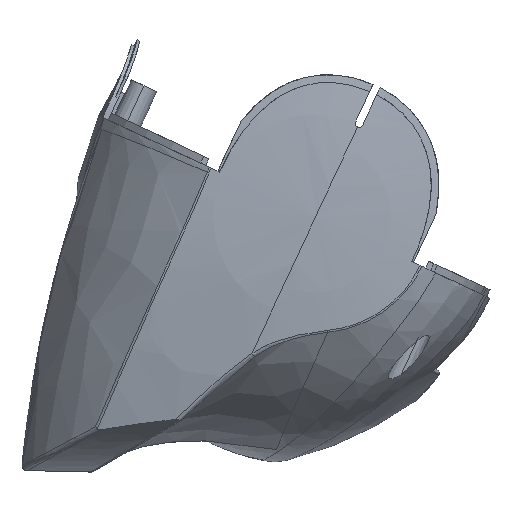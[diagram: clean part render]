
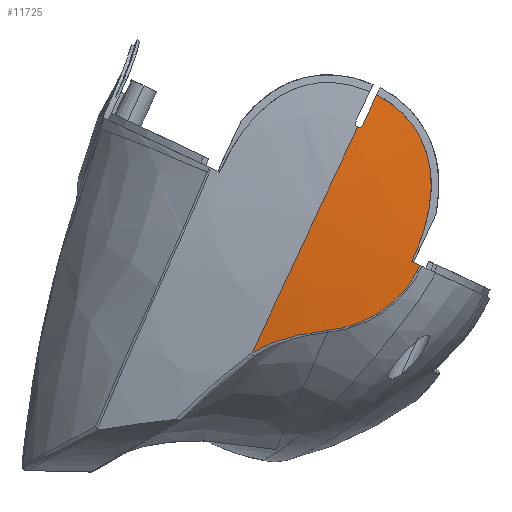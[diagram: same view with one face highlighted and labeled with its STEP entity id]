
A CAD part, left-side view. The second image highlights one B-rep face of the part: STEP entity #11725.
In plain terms, the highlighted spherical face has radius 235.698 mm.
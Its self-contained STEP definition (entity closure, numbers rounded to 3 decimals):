
#1496=CARTESIAN_POINT('',(-42.922,-20.327,
-9.478));
#1501=CARTESIAN_POINT('',(191.706,0.,
0.));
#1502=DIRECTION('',(0.,0.423,-0.906));
#1503=DIRECTION('',(-0.995,-0.086,-0.04));
#1504=AXIS2_PLACEMENT_3D('',#1501,#1502,#1503);
#1604=CARTESIAN_POINT('',(191.706,-0.68,
-0.317));
#1605=DIRECTION('',(0.,0.906,0.423));
#1606=DIRECTION('',(-0.996,-0.036,0.077));
#1607=AXIS2_PLACEMENT_3D('',#1604,#1605,#1606);
#1612=CARTESIAN_POINT('',(-42.49,-11.904,
23.754));
#1613=CARTESIAN_POINT('',(-42.49,-12.421,
23.489));
#1614=CARTESIAN_POINT('',(-42.493,-13.428,
22.919));
#1615=CARTESIAN_POINT('',(-42.5,-14.843,
21.951));
#1616=CARTESIAN_POINT('',(-42.511,-16.153,
20.881));
#1617=CARTESIAN_POINT('',(-42.526,-17.349,
19.72));
#1618=CARTESIAN_POINT('',(-42.545,-18.422,
18.483));
#1619=CARTESIAN_POINT('',(-42.568,-19.371,
17.175));
#1620=CARTESIAN_POINT('',(-42.595,-20.197,
15.798));
#1621=CARTESIAN_POINT('',(-42.626,-20.899,
14.356));
#1622=CARTESIAN_POINT('',(-42.661,-21.48,
12.842));
#1623=CARTESIAN_POINT('',(-42.701,-21.938,
11.252));
#1624=CARTESIAN_POINT('',(-42.745,-22.269,
9.569));
#1625=CARTESIAN_POINT('',(-42.792,-22.466,
7.787));
#1626=CARTESIAN_POINT('',(-42.843,-22.519,
5.881));
#1627=CARTESIAN_POINT('',(-42.896,-22.409,
3.828));
#1628=CARTESIAN_POINT('',(-42.95,-22.116,
1.624));
#1629=CARTESIAN_POINT('',(-43.003,-21.608,
-0.788));
#1630=CARTESIAN_POINT('',(-43.05,-20.828,
-3.474));
#1631=CARTESIAN_POINT('',(-43.081,-19.812,
-6.217));
#1632=CARTESIAN_POINT('',(-43.088,-19.078,
-7.891));
#1633=CARTESIAN_POINT('',(-43.088,-18.693,
-8.717));
#1638=CARTESIAN_POINT('',(-42.922,-20.327,
-9.478));
#1639=CARTESIAN_POINT('',(-42.922,-19.068,
-12.177));
#1640=CARTESIAN_POINT('',(-42.925,-17.242,
-14.609));
#1641=CARTESIAN_POINT('',(-42.928,-15.01,
-16.582));
#1646=CARTESIAN_POINT('',(-42.928,-15.01,
-16.582));
#1647=CARTESIAN_POINT('',(-42.931,-13.256,
-18.134));
#1648=CARTESIAN_POINT('',(-42.937,-9.251,
-20.674));
#1649=CARTESIAN_POINT('',(-42.942,-4.663,
-21.857));
#1650=CARTESIAN_POINT('',(-42.944,-2.333,
-22.084));
#1655=CARTESIAN_POINT('',(-42.944,-2.333,
-22.084));
#1656=CARTESIAN_POINT('',(-42.944,-1.844,
-22.134));
#1657=CARTESIAN_POINT('',(-42.94,-0.884,
-22.247));
#1658=CARTESIAN_POINT('',(-42.921,0.553,
-22.454));
#1659=CARTESIAN_POINT('',(-42.89,1.947,
-22.694));
#1660=CARTESIAN_POINT('',(-42.849,3.288,
-22.965));
#1661=CARTESIAN_POINT('',(-42.798,4.566,
-23.264));
#1662=CARTESIAN_POINT('',(-42.738,5.775,
-23.59));
#1663=CARTESIAN_POINT('',(-42.672,6.917,
-23.943));
#1664=CARTESIAN_POINT('',(-42.597,8.001,
-24.329));
#1665=CARTESIAN_POINT('',(-42.514,9.06,
-24.761));
#1666=CARTESIAN_POINT('',(-42.417,10.12,
-25.256));
#1667=CARTESIAN_POINT('',(-42.305,11.21,
-25.83));
#1668=CARTESIAN_POINT('',(-42.215,11.98,
-26.287));
#1669=CARTESIAN_POINT('',(-42.166,12.374,
-26.536));
#1674=CARTESIAN_POINT('',(191.706,0.,0.));
#1675=DIRECTION('',(0.,0.906,0.423));
#1676=DIRECTION('',(-1.,0.,0.));
#1677=AXIS2_PLACEMENT_3D('',#1674,#1675,#1676);
#1682=CARTESIAN_POINT('',(-43.205,-8.135,
17.446));
#1683=CARTESIAN_POINT('',(-43.205,-8.225,
17.405));
#1684=CARTESIAN_POINT('',(-43.201,-8.42,
17.358));
#1685=CARTESIAN_POINT('',(-43.188,-8.707,
17.401));
#1686=CARTESIAN_POINT('',(-43.166,-8.969,
17.555));
#1687=CARTESIAN_POINT('',(-43.149,-9.09,
17.718));
#1688=CARTESIAN_POINT('',(-43.141,-9.132,
17.809));
#1718=CARTESIAN_POINT('',(191.706,0.,0.));
#1719=DIRECTION('',(0.,-0.906,-0.423));
#1720=DIRECTION('',(-1.,0.,0.));
#1721=AXIS2_PLACEMENT_3D('',#1718,#1719,#1720);
#8218=VERTEX_POINT('',#1496);
#8219=CARTESIAN_POINT('',(-43.088,-18.693,
-8.717));
#8220=VERTEX_POINT('',#8219);
#8332=VERTEX_POINT('',#1641);
#8333=VERTEX_POINT('',#1650);
#8335=CARTESIAN_POINT('',(-43.141,-9.132,
17.809));
#8336=CARTESIAN_POINT('',(-42.49,-11.904,
23.754));
#8337=VERTEX_POINT('',#8335);
#8338=VERTEX_POINT('',#8336);
#8339=VERTEX_POINT('',#1669);
#8340=CARTESIAN_POINT('',(-43.992,0.,0.));
#8341=VERTEX_POINT('',#8340);
#8342=CARTESIAN_POINT('',(-43.205,-8.135,
17.446));
#8343=VERTEX_POINT('',#8342);
#11703=CARTESIAN_POINT('',(191.706,0.,0.));
#11704=DIRECTION('',(-1.,0.,0.));
#11705=DIRECTION('',(0.,-0.423,0.906));
#11706=AXIS2_PLACEMENT_3D('',#11703,#11704,#11705);
#11707=SPHERICAL_SURFACE('',#11706,235.698);
#11709=ORIENTED_EDGE('',*,*,#11708,.T.);
#11711=ORIENTED_EDGE('',*,*,#11710,.T.);
#11712=ORIENTED_EDGE('',*,*,#11610,.F.);
#11713=ORIENTED_EDGE('',*,*,#11693,.T.);
#11714=ORIENTED_EDGE('',*,*,#11691,.T.);
#11716=ORIENTED_EDGE('',*,*,#11715,.T.);
#11718=ORIENTED_EDGE('',*,*,#11717,.F.);
#11720=ORIENTED_EDGE('',*,*,#11719,.T.);
#11722=ORIENTED_EDGE('',*,*,#11721,.T.);
#11723=EDGE_LOOP('',(#11709,#11711,#11712,#11713,#11714,#11716,#11718,#11720,
#11722));
#11724=FACE_OUTER_BOUND('',#11723,.F.);
#1505=CIRCLE('',#1504,235.698);
#1608=CIRCLE('',#1607,235.697);
#1634=B_SPLINE_CURVE_WITH_KNOTS('',3,(#1612,#1613,#1614,#1615,#1616,#1617,#1618,
#1619,#1620,#1621,#1622,#1623,#1624,#1625,#1626,#1627,#1628,#1629,#1630,#1631,
#1632,#1633),.UNSPECIFIED.,.F.,.F.,(4,1,1,1,1,1,1,1,1,1,1,1,1,1,1,1,1,1,1,4),(
0.,0.053,0.105,0.158,0.211,
0.263,0.316,0.368,0.421,
0.474,0.526,0.579,0.632,
0.684,0.737,0.789,0.842,
0.895,0.947,1.),.UNSPECIFIED.);
#1642=B_SPLINE_CURVE_WITH_KNOTS('',3,(#1638,#1639,#1640,#1641),.UNSPECIFIED.,
.F.,.F.,(4,4),(0.,1.),.UNSPECIFIED.);
#1651=B_SPLINE_CURVE_WITH_KNOTS('',3,(#1646,#1647,#1648,#1649,#1650),
.UNSPECIFIED.,.F.,.F.,(4,1,4),(0.,0.5,1.),.UNSPECIFIED.);
#1670=B_SPLINE_CURVE_WITH_KNOTS('',3,(#1655,#1656,#1657,#1658,#1659,#1660,#1661,
#1662,#1663,#1664,#1665,#1666,#1667,#1668,#1669),.UNSPECIFIED.,.F.,.F.,(4,1,1,1,
1,1,1,1,1,1,1,1,4),(0.,0.083,0.167,0.25,
0.333,0.417,0.5,0.583,0.667,
0.75,0.833,0.917,1.),.UNSPECIFIED.);
#1678=CIRCLE('',#1677,235.698);
#1689=B_SPLINE_CURVE_WITH_KNOTS('',3,(#1682,#1683,#1684,#1685,#1686,#1687,
#1688),.UNSPECIFIED.,.F.,.F.,(4,1,1,1,4),(0.,0.25,0.5,0.75,1.),
.UNSPECIFIED.);
#1722=CIRCLE('',#1721,235.698);
#11610=EDGE_CURVE('',#8218,#8220,#1505,.T.);
#11691=EDGE_CURVE('',#8332,#8333,#1651,.T.);
#11693=EDGE_CURVE('',#8218,#8332,#1642,.T.);
#11708=EDGE_CURVE('',#8337,#8338,#1608,.T.);
#11710=EDGE_CURVE('',#8338,#8220,#1634,.T.);
#11715=EDGE_CURVE('',#8333,#8339,#1670,.T.);
#11717=EDGE_CURVE('',#8341,#8339,#1722,.T.);
#11719=EDGE_CURVE('',#8341,#8343,#1678,.T.);
#11721=EDGE_CURVE('',#8343,#8337,#1689,.T.);
#11725=ADVANCED_FACE('',(#11724),#11707,.T.);
